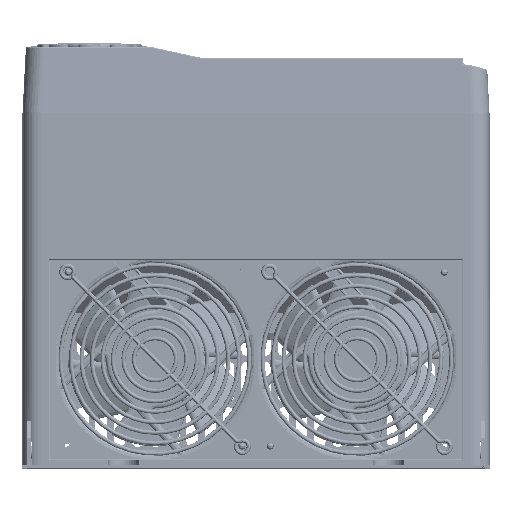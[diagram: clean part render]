
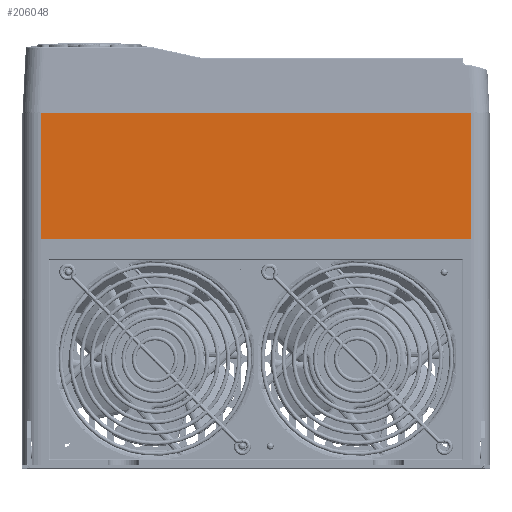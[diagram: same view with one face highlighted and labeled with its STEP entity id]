
A CAD part, top view. The second image highlights one B-rep face of the part: STEP entity #206048.
In plain terms, the highlighted planar face has unit normal (0, 0, 1) as drawn and (1, 0, 0) by its records, which use the part's own axes.
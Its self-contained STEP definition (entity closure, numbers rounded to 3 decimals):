
#149216 = VERTEX_POINT('',#149217);
#149217 = CARTESIAN_POINT('',(260.,130.,76.));
#149224 = EDGE_CURVE('',#149225,#149216,#149227,.T.);
#149225 = VERTEX_POINT('',#149226);
#149226 = CARTESIAN_POINT('',(260.,-130.,76.));
#149227 = LINE('',#149228,#149229);
#149228 = CARTESIAN_POINT('',(260.,-130.,76.));
#149229 = VECTOR('',#149230,1.);
#149230 = DIRECTION('',(0.,1.,0.));
#205588 = VERTEX_POINT('',#205589);
#205589 = CARTESIAN_POINT('',(260.,-130.,0.));
#205596 = EDGE_CURVE('',#205588,#205597,#205599,.T.);
#205597 = VERTEX_POINT('',#205598);
#205598 = CARTESIAN_POINT('',(260.,130.,0.));
#205599 = LINE('',#205600,#205601);
#205600 = CARTESIAN_POINT('',(260.,-130.,0.));
#205601 = VECTOR('',#205602,1.);
#205602 = DIRECTION('',(0.,1.,0.));
#206035 = EDGE_CURVE('',#149225,#205588,#206036,.T.);
#206036 = LINE('',#206037,#206038);
#206037 = CARTESIAN_POINT('',(260.,-130.,76.));
#206038 = VECTOR('',#206039,1.);
#206039 = DIRECTION('',(0.,0.,-1.));
#206048 = ADVANCED_FACE('',(#206049),#206060,.T.);
#206049 = FACE_BOUND('',#206050,.F.);
#206050 = EDGE_LOOP('',(#206051,#206052,#206053,#206059));
#206051 = ORIENTED_EDGE('',*,*,#206035,.F.);
#206052 = ORIENTED_EDGE('',*,*,#149224,.T.);
#206053 = ORIENTED_EDGE('',*,*,#206054,.T.);
#206054 = EDGE_CURVE('',#149216,#205597,#206055,.T.);
#206055 = LINE('',#206056,#206057);
#206056 = CARTESIAN_POINT('',(260.,130.,76.));
#206057 = VECTOR('',#206058,1.);
#206058 = DIRECTION('',(0.,0.,-1.));
#206059 = ORIENTED_EDGE('',*,*,#205596,.F.);
#206060 = PLANE('',#206061);
#206061 = AXIS2_PLACEMENT_3D('',#206062,#206063,#206064);
#206062 = CARTESIAN_POINT('',(260.,-141.,0.));
#206063 = DIRECTION('',(1.,0.,0.));
#206064 = DIRECTION('',(-0.,1.,0.));
